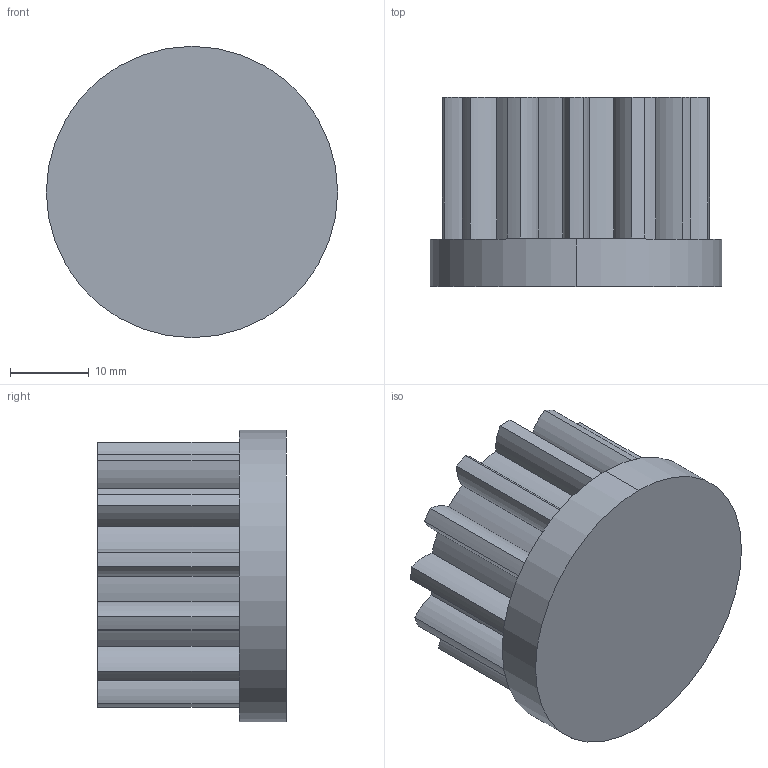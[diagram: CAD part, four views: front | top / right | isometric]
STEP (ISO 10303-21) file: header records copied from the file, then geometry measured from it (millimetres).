
FILE_DESCRIPTION (( 'STEP AP214' ), '1' );
FILE_NAME ('Base Gear.STEP', '2026-04-30T16:19:27', ( '' ), ( '' ), 'SwSTEP 2.0', 'SolidWorks 2022', '' );
FILE_SCHEMA (( 'AUTOMOTIVE_DESIGN' ));
Length unit declared in the file: millimetre
Products named in the file (1): Base Gear
Bounding box: 37 x 24 x 37 mm (x, y, z)
Volume: 18668 mm3; surface area: 6102.1 mm2
Topology: 1 solids, 1 shells, 61 faces, 171 edges, 114 vertices
Faces by surface type: cylinder 31, bspline 26, plane 4
Entity records: 2177 total; most frequent: CARTESIAN_POINT 685, ORIENTED_EDGE 342, DIRECTION 253, EDGE_CURVE 171, VERTEX_POINT 114, AXIS2_PLACEMENT_3D 98, EDGE_LOOP 63, CIRCLE 62
